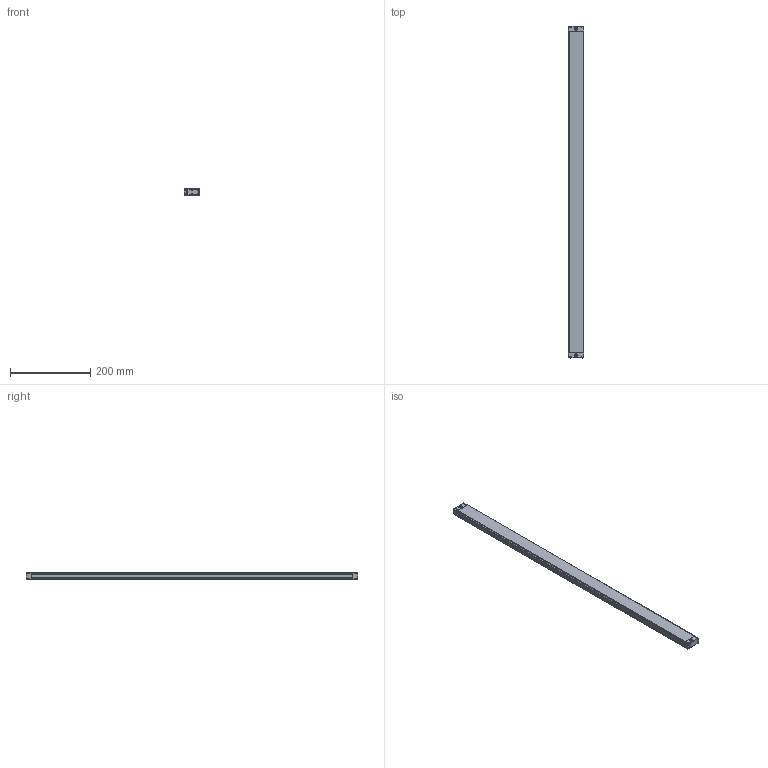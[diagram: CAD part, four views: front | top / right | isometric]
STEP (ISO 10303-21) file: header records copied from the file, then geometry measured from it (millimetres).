
FILE_DESCRIPTION((''),'2;1');
FILE_NAME('EB15--3610_ASM','2021-07-22T10:15:47',('18720616900'),(''),'CREO PARAMETRIC BY PTC INC, 2019010','CREO PARAMETRIC BY PTC INC, 2019010','');
FILE_SCHEMA(('CONFIG_CONTROL_DESIGN'));
Length unit declared in the file: millimetre
Products named in the file (6): EB15-00; EB15-000; EB15-0003; EB15-0004; ST-3-12; EB15--3610_ASM
Assembly tree (12 placements, depth 2):
  EB15--3610_ASM
    EB15-00
    EB15-000
    EB15-0003
    EB15-0004
    ST-3-12  x8
Bounding box: 39.15 x 825 x 15.8 mm (x, y, z)
Volume: 495707.9 mm3; surface area: 121288.5 mm2
Topology: 12 solids, 12 shells, 827 faces, 2188 edges, 1368 vertices
Faces by surface type: plane 242, bspline 188, cone 176, cylinder 165, torus 40, sphere 16
Entity records: 16044 total; most frequent: CARTESIAN_POINT 7660, ORIENTED_EDGE 1804, DIRECTION 1603, EDGE_CURVE 902, AXIS2_PLACEMENT_3D 577, VERTEX_POINT 563, VECTOR 449, LINE 449
